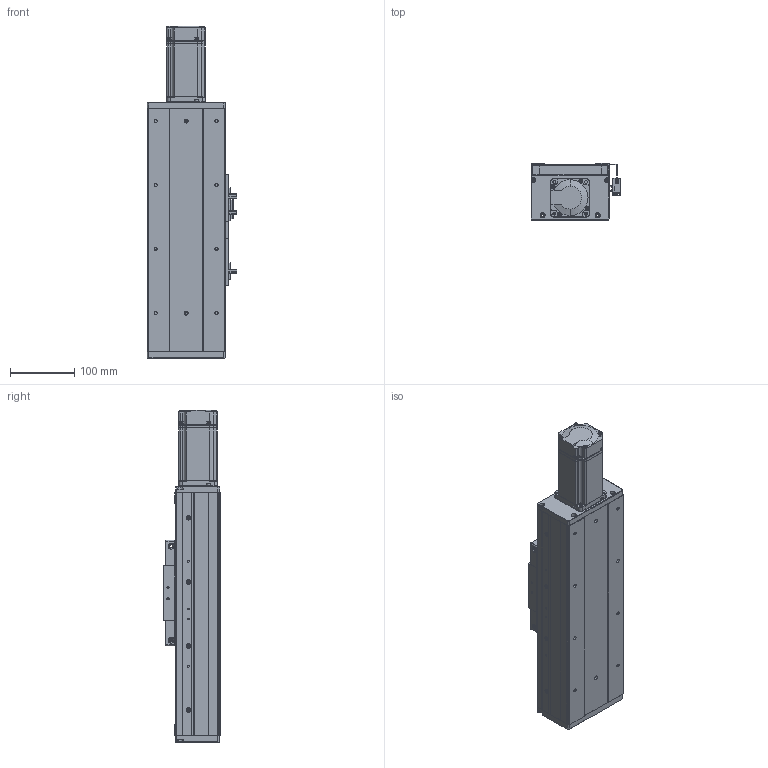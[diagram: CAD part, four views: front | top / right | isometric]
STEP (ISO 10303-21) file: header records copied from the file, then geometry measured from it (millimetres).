
FILE_DESCRIPTION (( 'STEP AP203' ), '1' );
FILE_NAME ('RY120F-L1620-300-MK.SLDASM_100.step', '2021-03-02T06:01:49', ( '盈信电脑' ), ( '东莞市道滘镇水果街19号' ), 'SwSTEP 2.0', 'SolidWorks 2012', '' );
FILE_SCHEMA (( 'CONFIG_CONTROL_DESIGN' ));
Length unit declared in the file: millimetre
Products named in the file (18): RY120F-L1620-300-MK.SLDASM_100; RY80俋离覜茼え; 滅袉蝶18-28; RY120F-臏賑輸 16蹟譫; FY120F詩湍揤踡輸; RY120F綴裔啣(臏璃ㄘ; 覜茼ん672; RY120F-詩湍幗謫粣; 672嫖萇羲壽假蚾釱; 滅袉蝶18-24; RY120F眻蟀ヶ裔啣; 侂狟400W侜督萇儂; RY120F祥凄詩滅鳥裔; RY120F-臏賑輸奻釱; 15; RY120F滅鳥詩湍-300-MK_100; RY120F-300-倰第菁釱_100; RY120F-300-倰第裔啣_100
Assembly tree (23 placements, depth 3):
  RY120F-L1620-300-MK.SLDASM_100
    RY120F-300-倰第菁釱_100
    RY120F-300-倰第裔啣_100  x2
    RY120F滅鳥詩湍-300-MK_100
    RY120F-臏賑輸奻釱
    侂狟400W侜督萇儂
      15
    RY120F眻蟀ヶ裔啣
    RY120F祥凄詩滅鳥裔
    滅袉蝶18-24
    RY120F綴裔啣(臏璃ㄘ
    RY120F-詩湍幗謫粣
    覜茼ん672  x3
    672嫖萇羲壽假蚾釱  x2
    RY80俋离覜茼え
    FY120F詩湍揤踡輸  x2
    RY120F-臏賑輸 16蹟譫
    滅袉蝶18-28  x2
Bounding box: 140.35 x 89 x 518.5 mm (x, y, z)
Volume: 1939554.2 mm3; surface area: 630623.4 mm2
Topology: 22 solids, 22 shells, 1833 faces, 4941 edges, 3187 vertices
Faces by surface type: plane 858, cylinder 786, cone 171, bspline 18
Entity records: 50675 total; most frequent: CARTESIAN_POINT 9067, DIRECTION 8565, ORIENTED_EDGE 8042, EDGE_CURVE 4021, AXIS2_PLACEMENT_3D 3067, VERTEX_POINT 2631, VECTOR 2431, LINE 2431
